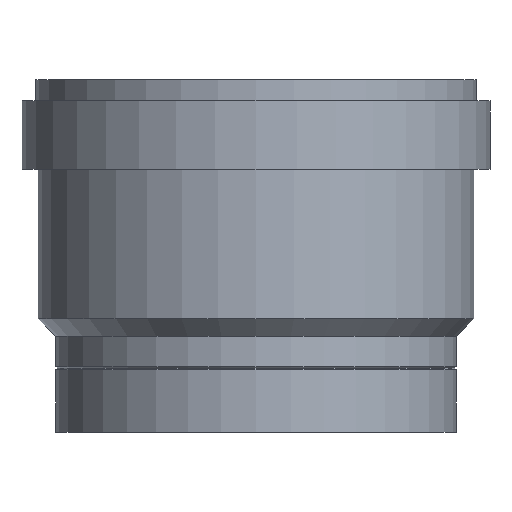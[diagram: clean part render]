
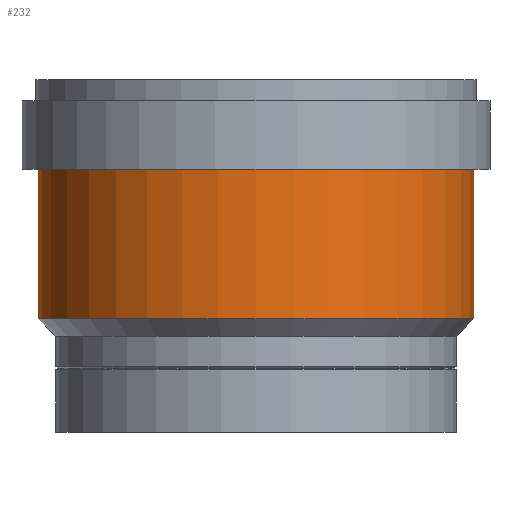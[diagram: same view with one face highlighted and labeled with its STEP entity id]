
A CAD part, front view. The second image highlights one B-rep face of the part: STEP entity #232.
In plain terms, the highlighted cylindrical face has radius 68.25 mm (diameter 136.5 mm), a full revolution.
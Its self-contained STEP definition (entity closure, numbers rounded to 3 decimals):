
#23=CYLINDRICAL_SURFACE('',#281,68.25);
#37=FACE_BOUND('',#84,.T.);
#56=FACE_OUTER_BOUND('',#83,.T.);
#83=EDGE_LOOP('',(#178));
#84=EDGE_LOOP('',(#179));
#114=CIRCLE('',#280,68.25);
#115=CIRCLE('',#282,68.25);
#133=VERTEX_POINT('',#406);
#134=VERTEX_POINT('',#409);
#152=EDGE_CURVE('',#133,#133,#114,.T.);
#153=EDGE_CURVE('',#134,#134,#115,.T.);
#178=ORIENTED_EDGE('',*,*,#152,.T.);
#179=ORIENTED_EDGE('',*,*,#153,.F.);
#232=ADVANCED_FACE('',(#56,#37),#23,.T.);
#280=AXIS2_PLACEMENT_3D('',#407,#337,#338);
#281=AXIS2_PLACEMENT_3D('',#408,#339,#340);
#282=AXIS2_PLACEMENT_3D('',#410,#341,#342);
#337=DIRECTION('center_axis',(0.,0.,-1.));
#338=DIRECTION('ref_axis',(1.,0.,0.));
#339=DIRECTION('center_axis',(0.,0.,-1.));
#340=DIRECTION('ref_axis',(-1.,0.,0.));
#341=DIRECTION('center_axis',(0.,0.,-1.));
#342=DIRECTION('ref_axis',(1.,0.,0.));
#406=CARTESIAN_POINT('',(-68.25,0.,-28.));
#407=CARTESIAN_POINT('Origin',(0.,0.,-28.));
#408=CARTESIAN_POINT('Origin',(0.,0.,-51.431));
#409=CARTESIAN_POINT('',(-68.25,0.,-74.863));
#410=CARTESIAN_POINT('Origin',(0.,0.,-74.863));
